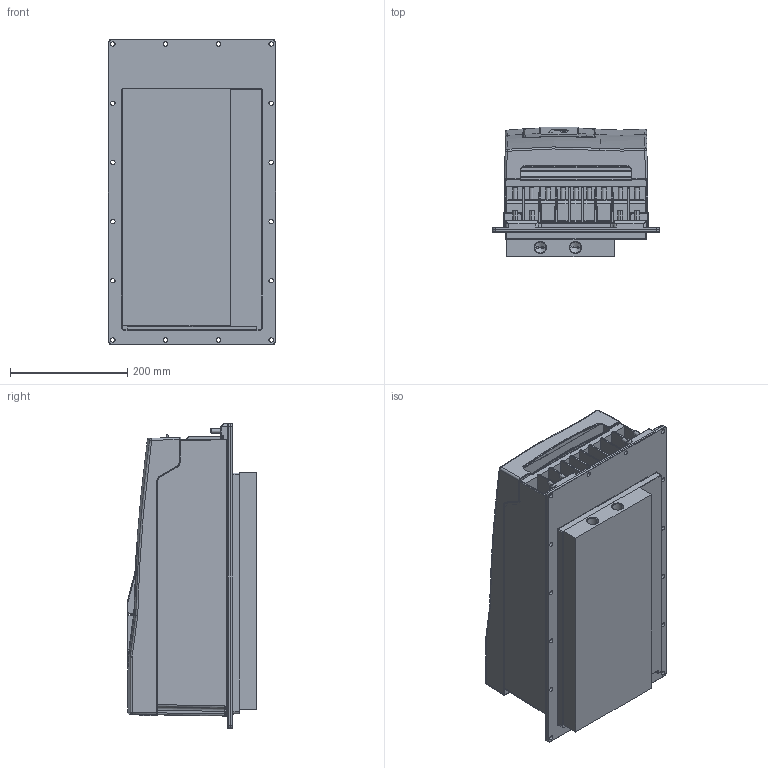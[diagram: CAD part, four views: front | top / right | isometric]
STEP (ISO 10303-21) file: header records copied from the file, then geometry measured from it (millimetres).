
FILE_DESCRIPTION (( 'STEP AP214' ), '1' );
FILE_NAME ('10062122_000.STEP', '2023-04-11T13:07:22', ( '' ), ( '' ), 'SwSTEP 2.0', 'SolidWorks 2022', '' );
FILE_SCHEMA (( 'AUTOMOTIVE_DESIGN' ));
Length unit declared in the file: millimetre
Products named in the file (13): 10059764_000_Blindabdeckung (Kundenmodell); 10035736_000_Kundenmodell; Kundenmodell^10059764_000; 10061793_000_Deckelbaugruppe F6-6 (Kundenmodell); 10027377_000_Kundenmodell; Kundemmodell^10027377_000; 10062122_000; Kundenmodell^10035736_000; 10061997_000_Leistungsteil F6-6 TK5 (Kundenmodell); 10027052_000_Gehäusebaugruppe F6-6 (Kundenmodell); Kundenmodell^10061997_000; Kundenmodell^10061793_000; Kundenmodell^10027052_000
Assembly tree (12 placements, depth 4):
  10062122_000
    10061997_000_Leistungsteil F6-6 TK5 (Kundenmodell)
      10027377_000_Kundenmodell
        Kundemmodell^10027377_000
      Kundenmodell^10061997_000
    10027052_000_Gehäusebaugruppe F6-6 (Kundenmodell)
      10061793_000_Deckelbaugruppe F6-6 (Kundenmodell)
        Kundenmodell^10061793_000
      Kundenmodell^10027052_000
    10035736_000_Kundenmodell
      10059764_000_Blindabdeckung (Kundenmodell)
        Kundenmodell^10059764_000
      Kundenmodell^10035736_000
Bounding box: 285 x 221.4 x 520 mm (x, y, z)
Volume: 21326567.5 mm3; surface area: 1292193.9 mm2
Topology: 13 solids, 19 shells, 2809 faces, 7048 edges, 4198 vertices
Faces by surface type: cylinder 1023, plane 887, bspline 611, sphere 106, torus 106, cone 76
Entity records: 95503 total; most frequent: CARTESIAN_POINT 33350, ORIENTED_EDGE 13782, DIRECTION 11845, EDGE_CURVE 6891, AXIS2_PLACEMENT_3D 4268, VERTEX_POINT 4196, VECTOR 3309, LINE 3309
